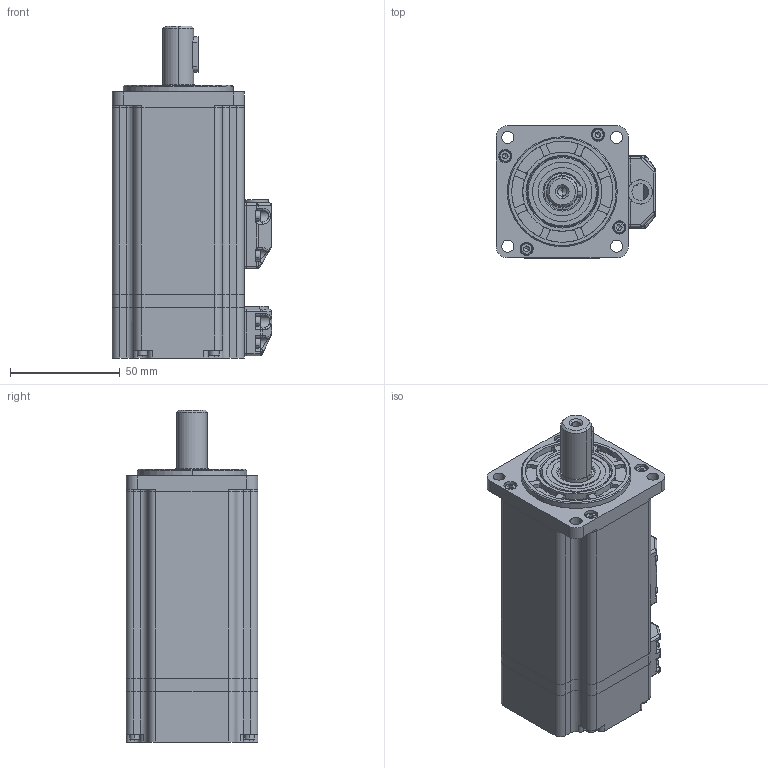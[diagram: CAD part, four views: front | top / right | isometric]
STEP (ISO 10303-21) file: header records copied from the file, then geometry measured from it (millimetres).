
FILE_DESCRIPTION (( 'STEP AP203' ), '1' );
FILE_NAME ('淕儂蚾饜.STEP', '2019-11-01T09:23:09', ( 'admin' ), ( '' ), 'SwSTEP 2.0', 'SolidWorks 2016', '' );
FILE_SCHEMA (( 'CONFIG_CONTROL_DESIGN' ));
Length unit declared in the file: millimetre
Products named in the file (1): 淕儂蚾饜
Bounding box: 72.5 x 60 x 151 mm (x, y, z)
Volume: 159227.8 mm3; surface area: 100484 mm2
Topology: 28 solids, 28 shells, 1527 faces, 3821 edges, 2357 vertices
Faces by surface type: cylinder 663, plane 593, cone 169, torus 40, sphere 38, bspline 24
Entity records: 48084 total; most frequent: CARTESIAN_POINT 10880, DIRECTION 8249, ORIENTED_EDGE 7466, EDGE_CURVE 3733, AXIS2_PLACEMENT_3D 3162, VERTEX_POINT 2357, VECTOR 1925, LINE 1925
